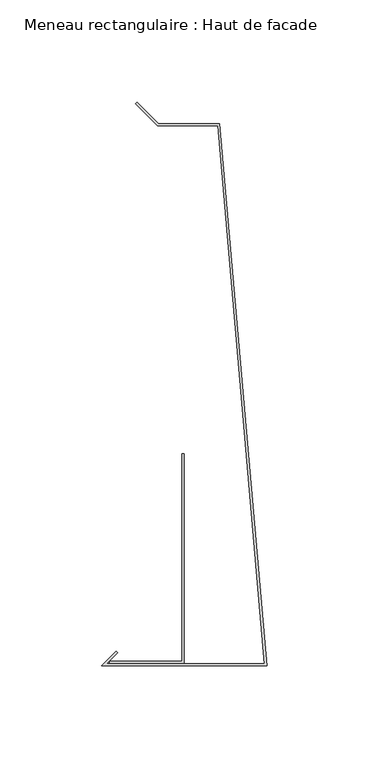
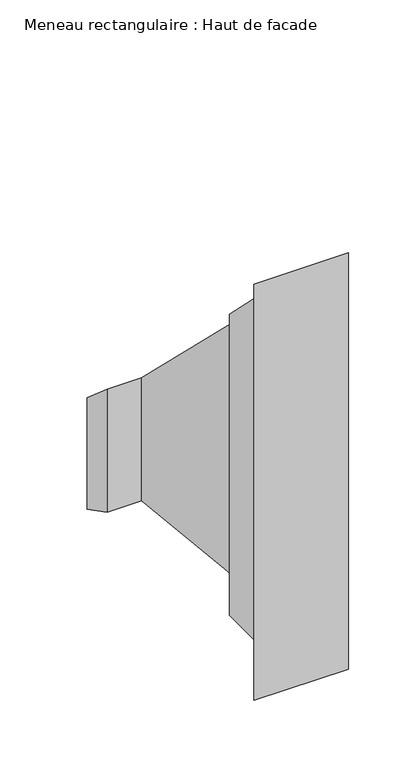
"""IFC4 building model written with IfcOpenShell, lengths in millimetres: member geometry, Meneau rectangulaire : Haut de facade."""

from ifc_helpers import new_model, si_unit, origin, place, context, project, spatial, faceted_brep, source, transform, mapped, element, save


def meneau_rectangulaire_haut_de_facade_e015aa21(model_context):
    return source(origin(), model_context, "Body", "Brep", [
        faceted_brep([(-24.0647895, 160.703755, -272.0945223), (-53.5626719, 160.703755, -272.0945223), (-64.4621669, 171.6032499, -272.0945223), (-63.7550601, 172.3103567, -272.0945223), (-53.1484584, 161.703755, -272.0945223), (-23.1484584, 161.703755, -272.0945223), (0.0, -104.2, -272.0945223), (-81.0, -104.2, -272.0945223), (-73.9289322, -97.1289322, -272.0945223), (-73.2218254, -97.836039, -272.0945223), (-78.5857864, -103.2, -272.0945223), (-1.0913085, -103.2, -272.0945223), (-1.0913085, -103.2, 103.2), (-24.0647895, 160.703755, -160.703755), (-78.5857864, -103.2, 103.2), (-73.2218254, -97.836039, 97.836039), (-73.9289322, -97.1289322, 97.1289322), (-81.0, -104.2, 104.2), (0.0, -104.2, 104.2), (-23.1484584, 161.703755, -161.703755), (-53.1484584, 161.703755, -161.703755), (-63.7550601, 172.3103567, -172.3103567), (-64.4621669, 171.6032499, -171.6032499), (-53.5626719, 160.703755, -160.703755)], [[[0, 1, 2, 3, 4, 5, 6, 7, 8, 9, 10, 11]], [[12, 13, 0, 11]], [[14, 12, 11, 10]], [[15, 14, 10, 9]], [[16, 15, 9, 8]], [[17, 16, 8, 7]], [[18, 17, 7, 6]], [[19, 18, 6, 5]], [[20, 19, 5, 4]], [[21, 20, 4, 3]], [[22, 21, 3, 2]], [[23, 22, 2, 1]], [[13, 23, 1, 0]], [[13, 12, 14, 15, 16, 17, 18, 19, 20, 21, 22, 23]]]),
        faceted_brep([(-40.5477541, -102.9846816, -272.0945223), (-77.0752814, -102.9846816, -272.0945223), (-77.0752814, -101.9846816, -272.0945223), (-41.5477541, -101.9846816, -272.0945223), (-41.5477541, -0.0384227, -272.0945223), (-40.5477541, -0.0384227, -272.0945223), (-40.5477541, -0.0384227, 0.0384227), (-40.5477541, -102.9846816, 102.9846816), (-41.5477541, -0.0384227, 0.0384227), (-41.5477541, -101.9846816, 101.9846816), (-77.0752814, -101.9846816, 101.9846816), (-77.0752814, -102.9846816, 102.9846816)], [[[0, 1, 2, 3, 4, 5]], [[6, 7, 0, 5]], [[8, 6, 5, 4]], [[9, 8, 4, 3]], [[10, 9, 3, 2]], [[11, 10, 2, 1]], [[7, 11, 1, 0]], [[7, 6, 8, 9, 10, 11]]]),
    ])


if __name__ == "__main__":
    model = new_model("IFC4")
    model_context = context("Model", 3, world=origin())
    ifc_project = project(units=[si_unit("LENGTHUNIT", "METRE", prefix="MILLI")], contexts=[model_context])
    site = spatial("IfcSite", under=ifc_project)
    building = spatial("IfcBuilding", under=site)
    placement = place(None, origin())
    meneau_rectangulaire_haut_de_facade_shape = meneau_rectangulaire_haut_de_facade_e015aa21(model_context)
    element("IfcMember", 1, ObjectType="Meneau rectangulaire : Haut de facade", at=placement, inside=building, context=model_context, shape_type="MappedRepresentation", body=[
        mapped(meneau_rectangulaire_haut_de_facade_shape, transform((0.0, 0.0, 0.0), x_axis=(1.0, 0.0, 0.0), y_axis=(0.0, 1.0, 0.0), z_axis=(0.0, 0.0, 1.0))),
    ])
    save(model, "model.ifc")
